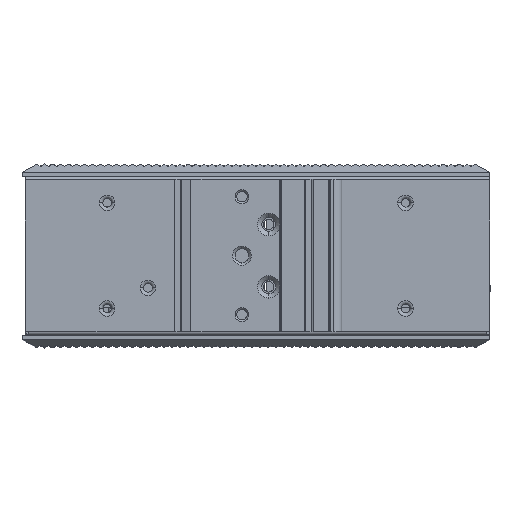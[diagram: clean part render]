
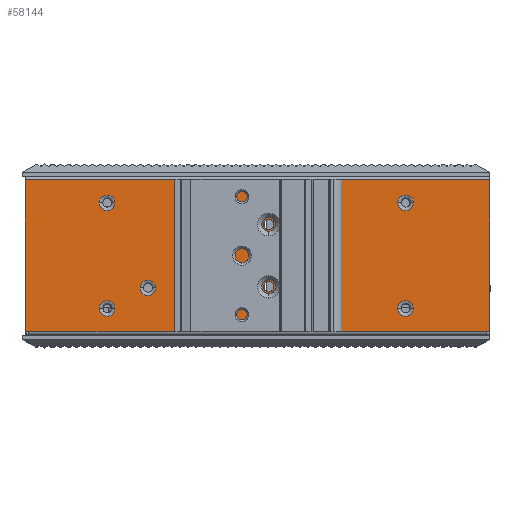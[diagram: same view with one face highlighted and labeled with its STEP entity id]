
A CAD part, top view. The second image highlights one B-rep face of the part: STEP entity #58144.
In plain terms, the highlighted planar face has unit normal (0, 0, 1).
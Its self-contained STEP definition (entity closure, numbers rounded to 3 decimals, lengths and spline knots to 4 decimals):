
#46176=DIRECTION('',(0.,-1.,0.));
#46177=VECTOR('',#46176,1.7244);
#46178=CARTESIAN_POINT('',(-2.6512,1.7244,
1.8228));
#46179=LINE('',#46178,#46177);
#46874=DIRECTION('',(1.,0.,0.));
#46875=VECTOR('',#46874,5.1969);
#46876=CARTESIAN_POINT('',(-2.6118,0.,1.8228));
#46877=LINE('',#46876,#46875);
#46882=DIRECTION('',(-1.,0.,0.));
#46883=VECTOR('',#46882,0.0394);
#46884=CARTESIAN_POINT('',(-2.6118,0.,1.8228));
#46885=LINE('',#46884,#46883);
#46886=DIRECTION('',(-1.,0.,0.));
#46887=VECTOR('',#46886,0.0394);
#46888=CARTESIAN_POINT('',(2.6244,0.,1.8228));
#46889=LINE('',#46888,#46887);
#46890=CARTESIAN_POINT('',(0.1114,1.2165,
1.8228));
#46891=DIRECTION('',(0.,0.,1.));
#46892=DIRECTION('',(1.,0.,0.));
#46893=AXIS2_PLACEMENT_3D('',#46890,#46891,#46892);
#46895=CARTESIAN_POINT('',(0.1114,1.2165,
1.8228));
#46896=DIRECTION('',(0.,0.,1.));
#46897=DIRECTION('',(-1.,0.,0.));
#46898=AXIS2_PLACEMENT_3D('',#46895,#46896,#46897);
#46900=CARTESIAN_POINT('',(0.1114,0.5079,
1.8228));
#46901=DIRECTION('',(0.,0.,1.));
#46902=DIRECTION('',(1.,0.,0.));
#46903=AXIS2_PLACEMENT_3D('',#46900,#46901,#46902);
#46905=CARTESIAN_POINT('',(0.1114,0.5079,
1.8228));
#46906=DIRECTION('',(0.,0.,1.));
#46907=DIRECTION('',(-1.,0.,0.));
#46908=AXIS2_PLACEMENT_3D('',#46905,#46906,#46907);
#46910=CARTESIAN_POINT('',(1.6677,0.2618,
1.8228));
#46911=DIRECTION('',(0.,0.,1.));
#46912=DIRECTION('',(-1.,0.,0.));
#46913=AXIS2_PLACEMENT_3D('',#46910,#46911,#46912);
#46915=CARTESIAN_POINT('',(1.6677,0.2618,
1.8228));
#46916=DIRECTION('',(0.,0.,1.));
#46917=DIRECTION('',(1.,0.,0.));
#46918=AXIS2_PLACEMENT_3D('',#46915,#46916,#46917);
#46920=CARTESIAN_POINT('',(1.6677,1.4626,1.8228));
#46921=DIRECTION('',(0.,0.,1.));
#46922=DIRECTION('',(-1.,0.,0.));
#46923=AXIS2_PLACEMENT_3D('',#46920,#46921,#46922);
#46925=CARTESIAN_POINT('',(1.6677,1.4626,1.8228));
#46926=DIRECTION('',(0.,0.,1.));
#46927=DIRECTION('',(1.,0.,0.));
#46928=AXIS2_PLACEMENT_3D('',#46925,#46926,#46927);
#46930=CARTESIAN_POINT('',(-1.7236,0.2618,
1.8228));
#46931=DIRECTION('',(0.,0.,1.));
#46932=DIRECTION('',(-1.,0.,0.));
#46933=AXIS2_PLACEMENT_3D('',#46930,#46931,#46932);
#46935=CARTESIAN_POINT('',(-1.7236,0.2618,
1.8228));
#46936=DIRECTION('',(0.,0.,1.));
#46937=DIRECTION('',(1.,0.,0.));
#46938=AXIS2_PLACEMENT_3D('',#46935,#46936,#46937);
#46940=CARTESIAN_POINT('',(-1.7236,1.4626,
1.8228));
#46941=DIRECTION('',(0.,0.,1.));
#46942=DIRECTION('',(-1.,0.,0.));
#46943=AXIS2_PLACEMENT_3D('',#46940,#46941,#46942);
#46945=CARTESIAN_POINT('',(-1.7236,1.4626,
1.8228));
#46946=DIRECTION('',(0.,0.,1.));
#46947=DIRECTION('',(1.,0.,0.));
#46948=AXIS2_PLACEMENT_3D('',#46945,#46946,#46947);
#46950=CARTESIAN_POINT('',(-1.2598,0.4961,
1.8228));
#46951=DIRECTION('',(0.,0.,1.));
#46952=DIRECTION('',(-1.,0.,0.));
#46953=AXIS2_PLACEMENT_3D('',#46950,#46951,#46952);
#46955=CARTESIAN_POINT('',(-1.2598,0.4961,
1.8228));
#46956=DIRECTION('',(0.,0.,1.));
#46957=DIRECTION('',(1.,0.,0.));
#46958=AXIS2_PLACEMENT_3D('',#46955,#46956,#46957);
#46964=DIRECTION('',(-1.,0.,0.));
#46965=VECTOR('',#46964,5.2756);
#46966=CARTESIAN_POINT('',(2.6244,1.7244,1.8228));
#46967=LINE('',#46966,#46965);
#47017=DIRECTION('',(0.,1.,0.));
#47018=VECTOR('',#47017,1.7244);
#47019=CARTESIAN_POINT('',(2.6244,0.,1.8228));
#47020=LINE('',#47019,#47018);
#53636=CARTESIAN_POINT('',(-2.6118,0.,1.8228));
#53637=VERTEX_POINT('',#53636);
#53638=CARTESIAN_POINT('',(-2.6512,0.,1.8228));
#53639=VERTEX_POINT('',#53638);
#53646=CARTESIAN_POINT('',(2.585,0.,1.8228));
#53647=VERTEX_POINT('',#53646);
#53648=CARTESIAN_POINT('',(2.6244,0.,1.8228));
#53649=VERTEX_POINT('',#53648);
#54588=CARTESIAN_POINT('',(2.6244,1.7244,1.8228));
#54589=VERTEX_POINT('',#54588);
#54590=CARTESIAN_POINT('',(-2.6512,1.7244,
1.8228));
#54591=VERTEX_POINT('',#54590);
#54656=CARTESIAN_POINT('',(0.1705,1.2165,
1.8228));
#54658=VERTEX_POINT('',#54656);
#54661=CARTESIAN_POINT('',(0.0524,1.2165,
1.8228));
#54663=VERTEX_POINT('',#54661);
#54664=CARTESIAN_POINT('',(0.1705,0.5079,
1.8228));
#54666=VERTEX_POINT('',#54664);
#54669=CARTESIAN_POINT('',(0.0524,0.5079,
1.8228));
#54671=VERTEX_POINT('',#54669);
#54673=CARTESIAN_POINT('',(1.5791,0.2618,
1.8228));
#54675=VERTEX_POINT('',#54673);
#54676=CARTESIAN_POINT('',(1.7563,0.2618,
1.8228));
#54678=VERTEX_POINT('',#54676);
#54693=CARTESIAN_POINT('',(1.5791,1.4626,1.8228));
#54695=VERTEX_POINT('',#54693);
#54696=CARTESIAN_POINT('',(1.7563,1.4626,1.8228));
#54698=VERTEX_POINT('',#54696);
#54713=CARTESIAN_POINT('',(-1.8122,0.2618,
1.8228));
#54715=VERTEX_POINT('',#54713);
#54716=CARTESIAN_POINT('',(-1.635,0.2618,
1.8228));
#54718=VERTEX_POINT('',#54716);
#54733=CARTESIAN_POINT('',(-1.8122,1.4626,
1.8228));
#54735=VERTEX_POINT('',#54733);
#54736=CARTESIAN_POINT('',(-1.635,1.4626,
1.8228));
#54738=VERTEX_POINT('',#54736);
#54753=CARTESIAN_POINT('',(-1.3484,0.4961,
1.8228));
#54755=VERTEX_POINT('',#54753);
#54756=CARTESIAN_POINT('',(-1.1713,0.4961,
1.8228));
#54758=VERTEX_POINT('',#54756);
#58087=CARTESIAN_POINT('',(-0.0134,0.8622,
1.8228));
#58088=DIRECTION('',(0.,0.,1.));
#58089=DIRECTION('',(-1.,0.,0.));
#58090=AXIS2_PLACEMENT_3D('',#58087,#58088,#58089);
#58091=PLANE('',#58090);
#58092=ORIENTED_EDGE('',*,*,#58080,.F.);
#58093=ORIENTED_EDGE('',*,*,#56721,.T.);
#58094=ORIENTED_EDGE('',*,*,#56735,.F.);
#58096=ORIENTED_EDGE('',*,*,#58095,.F.);
#58098=ORIENTED_EDGE('',*,*,#58097,.F.);
#58099=ORIENTED_EDGE('',*,*,#56808,.T.);
#58100=EDGE_LOOP('',(#58092,#58093,#58094,#58096,#58098,#58099));
#58101=FACE_OUTER_BOUND('',#58100,.F.);
#58103=ORIENTED_EDGE('',*,*,#58102,.T.);
#58105=ORIENTED_EDGE('',*,*,#58104,.T.);
#58106=EDGE_LOOP('',(#58103,#58105));
#58107=FACE_BOUND('',#58106,.F.);
#58109=ORIENTED_EDGE('',*,*,#58108,.T.);
#58111=ORIENTED_EDGE('',*,*,#58110,.T.);
#58112=EDGE_LOOP('',(#58109,#58111));
#58113=FACE_BOUND('',#58112,.F.);
#58115=ORIENTED_EDGE('',*,*,#58114,.T.);
#58117=ORIENTED_EDGE('',*,*,#58116,.T.);
#58118=EDGE_LOOP('',(#58115,#58117));
#58119=FACE_BOUND('',#58118,.F.);
#58121=ORIENTED_EDGE('',*,*,#58120,.T.);
#58123=ORIENTED_EDGE('',*,*,#58122,.T.);
#58124=EDGE_LOOP('',(#58121,#58123));
#58125=FACE_BOUND('',#58124,.F.);
#58127=ORIENTED_EDGE('',*,*,#58126,.T.);
#58129=ORIENTED_EDGE('',*,*,#58128,.T.);
#58130=EDGE_LOOP('',(#58127,#58129));
#58131=FACE_BOUND('',#58130,.F.);
#58133=ORIENTED_EDGE('',*,*,#58132,.T.);
#58135=ORIENTED_EDGE('',*,*,#58134,.T.);
#58136=EDGE_LOOP('',(#58133,#58135));
#58137=FACE_BOUND('',#58136,.F.);
#58139=ORIENTED_EDGE('',*,*,#58138,.T.);
#58141=ORIENTED_EDGE('',*,*,#58140,.T.);
#58142=EDGE_LOOP('',(#58139,#58141));
#58143=FACE_BOUND('',#58142,.F.);
#58144=ADVANCED_FACE('',(#58101,#58107,#58113,#58119,#58125,#58131,#58137,
#58143),#58091,.T.);
#46894=CIRCLE('',#46893,0.0591);
#46899=CIRCLE('',#46898,0.0591);
#46904=CIRCLE('',#46903,0.0591);
#46909=CIRCLE('',#46908,0.0591);
#46914=CIRCLE('',#46913,0.0886);
#46919=CIRCLE('',#46918,0.0886);
#46924=CIRCLE('',#46923,0.0886);
#46929=CIRCLE('',#46928,0.0886);
#46934=CIRCLE('',#46933,0.0886);
#46939=CIRCLE('',#46938,0.0886);
#46944=CIRCLE('',#46943,0.0886);
#46949=CIRCLE('',#46948,0.0886);
#46954=CIRCLE('',#46953,0.0886);
#46959=CIRCLE('',#46958,0.0886);
#56721=EDGE_CURVE('',#53637,#53639,#46885,.T.);
#56735=EDGE_CURVE('',#54591,#53639,#46179,.T.);
#56808=EDGE_CURVE('',#53649,#53647,#46889,.T.);
#58080=EDGE_CURVE('',#53637,#53647,#46877,.T.);
#58095=EDGE_CURVE('',#54589,#54591,#46967,.T.);
#58097=EDGE_CURVE('',#53649,#54589,#47020,.T.);
#58102=EDGE_CURVE('',#54658,#54663,#46894,.T.);
#58104=EDGE_CURVE('',#54663,#54658,#46899,.T.);
#58108=EDGE_CURVE('',#54666,#54671,#46904,.T.);
#58110=EDGE_CURVE('',#54671,#54666,#46909,.T.);
#58114=EDGE_CURVE('',#54675,#54678,#46914,.T.);
#58116=EDGE_CURVE('',#54678,#54675,#46919,.T.);
#58120=EDGE_CURVE('',#54695,#54698,#46924,.T.);
#58122=EDGE_CURVE('',#54698,#54695,#46929,.T.);
#58126=EDGE_CURVE('',#54715,#54718,#46934,.T.);
#58128=EDGE_CURVE('',#54718,#54715,#46939,.T.);
#58132=EDGE_CURVE('',#54735,#54738,#46944,.T.);
#58134=EDGE_CURVE('',#54738,#54735,#46949,.T.);
#58138=EDGE_CURVE('',#54755,#54758,#46954,.T.);
#58140=EDGE_CURVE('',#54758,#54755,#46959,.T.);
